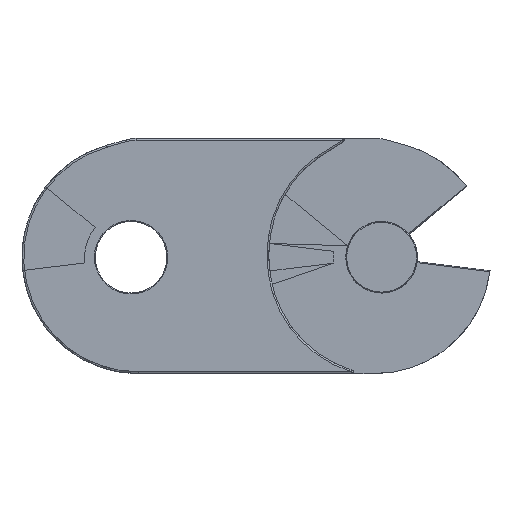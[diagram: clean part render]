
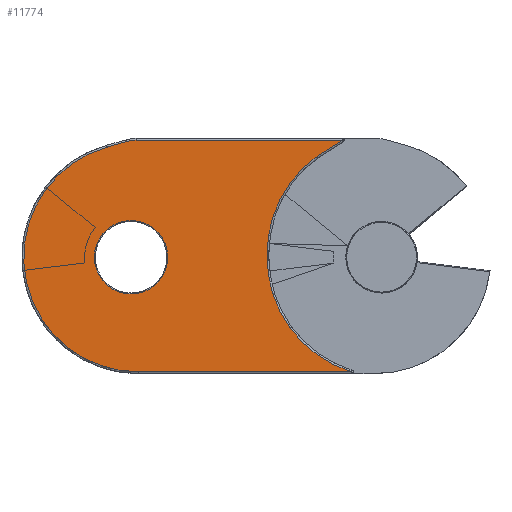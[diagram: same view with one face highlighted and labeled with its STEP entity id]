
A CAD part, left-side view. The second image highlights one B-rep face of the part: STEP entity #11774.
In plain terms, the highlighted planar face has unit normal (-1, 0, 0) as drawn and (0, 0, -1) by its records, which use the part's own axes.
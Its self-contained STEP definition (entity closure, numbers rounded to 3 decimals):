
#11247=CARTESIAN_POINT('',(175.781,120.591,0.));
#11248=VERTEX_POINT('',#11247);
#11276=CARTESIAN_POINT('',(199.365,153.091,0.));
#11277=VERTEX_POINT('',#11276);
#11293=CARTESIAN_POINT('',(165.868,152.591,0.));
#11294=DIRECTION('',(0.,0.,-1.));
#11295=DIRECTION('',(0.809,-0.587,0.));
#11296=AXIS2_PLACEMENT_3D('',#11293,#11294,#11295);
#11297=CIRCLE('',#11296,33.5);
#11298=EDGE_CURVE('',#11277,#11248,#11297,.T.);
#11308=CARTESIAN_POINT('',(185.373,180.828,0.));
#11309=VERTEX_POINT('',#11308);
#11310=CARTESIAN_POINT('',(165.868,153.591,0.));
#11311=DIRECTION('',(0.,0.,-1.));
#11312=DIRECTION('',(0.893,0.45,0.));
#11313=AXIS2_PLACEMENT_3D('',#11310,#11311,#11312);
#11314=CIRCLE('',#11313,33.5);
#11315=EDGE_CURVE('',#11309,#11277,#11314,.T.);
#11361=CARTESIAN_POINT('',(178.367,185.291,0.));
#11362=VERTEX_POINT('',#11361);
#11370=CARTESIAN_POINT('',(178.367,185.291,0.));
#11371=DIRECTION('',(0.843,-0.537,0.));
#11372=VECTOR('',#11371,8.308);
#11373=LINE('',#11370,#11372);
#11374=EDGE_CURVE('',#11362,#11309,#11373,.T.);
#11391=CARTESIAN_POINT('',(244.039,183.394,0.));
#11392=VERTEX_POINT('',#11391);
#11427=CARTESIAN_POINT('',(235.368,120.591,0.));
#11428=VERTEX_POINT('',#11427);
#11436=CARTESIAN_POINT('',(235.368,152.591,0.));
#11437=DIRECTION('',(0.,0.,1.));
#11438=DIRECTION('',(0.991,-0.137,0.));
#11439=AXIS2_PLACEMENT_3D('',#11436,#11437,#11438);
#11440=CIRCLE('',#11439,32.);
#11441=EDGE_CURVE('',#11428,#11392,#11440,.T.);
#11451=CARTESIAN_POINT('',(238.562,184.936,0.));
#11452=VERTEX_POINT('',#11451);
#11469=CARTESIAN_POINT('',(244.039,183.394,0.));
#11470=DIRECTION('',(-0.963,0.271,0.));
#11471=VECTOR('',#11470,5.69);
#11472=LINE('',#11469,#11471);
#11473=EDGE_CURVE('',#11392,#11452,#11472,.T.);
#11490=CARTESIAN_POINT('',(175.781,120.591,0.));
#11491=DIRECTION('',(1.0,0.0,0.0));
#11492=VECTOR('',#11491,59.588);
#11493=LINE('',#11490,#11492);
#11494=EDGE_CURVE('',#11248,#11428,#11493,.T.);
#11506=CARTESIAN_POINT('',(235.988,185.291,0.));
#11507=VERTEX_POINT('',#11506);
#11525=CARTESIAN_POINT('',(235.988,175.791,0.));
#11526=DIRECTION('',(0.,0.,1.0));
#11527=DIRECTION('',(0.137,0.991,0.));
#11528=AXIS2_PLACEMENT_3D('',#11525,#11526,#11527);
#11529=CIRCLE('',#11528,9.5);
#11530=EDGE_CURVE('',#11452,#11507,#11529,.T.);
#11556=CARTESIAN_POINT('',(235.988,185.291,0.));
#11557=DIRECTION('',(-1.0,0.0,0.0));
#11558=VECTOR('',#11557,57.621);
#11559=LINE('',#11556,#11558);
#11560=EDGE_CURVE('',#11507,#11362,#11559,.T.);
#11748=CARTESIAN_POINT('',(199.31,152.969,0.));
#11749=DIRECTION('',(0.0,0.0,1.0));
#11750=DIRECTION('',(1.0,0.0,0.0));
#11751=AXIS2_PLACEMENT_3D('',#11748,#11749,#11750);
#11752=PLANE('',#11751);
#11753=ORIENTED_EDGE('',*,*,#11441,.F.);
#11754=ORIENTED_EDGE('',*,*,#11494,.F.);
#11755=ORIENTED_EDGE('',*,*,#11298,.F.);
#11756=ORIENTED_EDGE('',*,*,#11315,.F.);
#11757=ORIENTED_EDGE('',*,*,#11374,.F.);
#11758=ORIENTED_EDGE('',*,*,#11560,.F.);
#11759=ORIENTED_EDGE('',*,*,#11530,.F.);
#11760=ORIENTED_EDGE('',*,*,#11473,.F.);
#11761=EDGE_LOOP('',(#11753,#11754,#11755,#11756,#11757,#11758,#11759,#11760));
#11762=FACE_OUTER_BOUND('',#11761,.T.);
#11763=CARTESIAN_POINT('',(247.618,152.591,0.));
#11764=VERTEX_POINT('',#11763);
#11765=CARTESIAN_POINT('',(237.368,152.591,0.));
#11766=DIRECTION('',(0.0,0.0,-1.0));
#11767=DIRECTION('',(-1.0,0.0,0.0));
#11768=AXIS2_PLACEMENT_3D('',#11765,#11766,#11767);
#11769=CIRCLE('',#11768,10.25);
#11770=EDGE_CURVE('',#11764,#11764,#11769,.T.);
#11771=ORIENTED_EDGE('',*,*,#11770,.F.);
#11772=EDGE_LOOP('',(#11771));
#11773=FACE_BOUND('',#11772,.T.);
#11774=ADVANCED_FACE('',(#11762,#11773),#11752,.F.);
